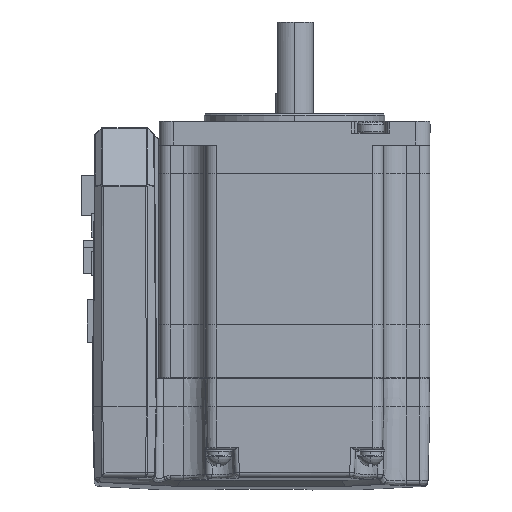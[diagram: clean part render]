
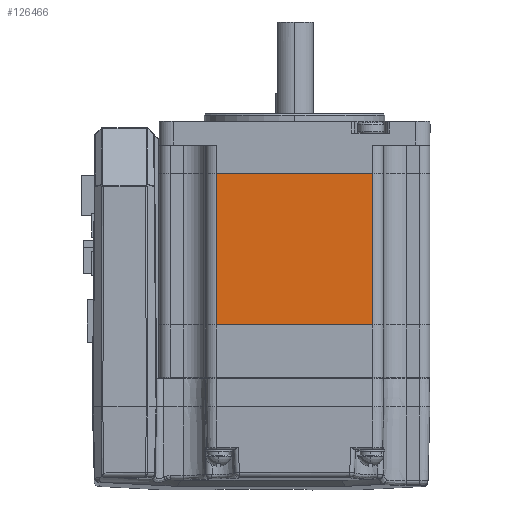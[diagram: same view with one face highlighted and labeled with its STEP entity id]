
A CAD part, left-side view. The second image highlights one B-rep face of the part: STEP entity #126466.
In plain terms, the highlighted planar face has unit normal (-1, 0, 0).
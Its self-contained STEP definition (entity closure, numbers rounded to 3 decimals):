
#117747=DIRECTION('',(0.,0.,1.));
#117748=VECTOR('',#117747,32.);
#117749=CARTESIAN_POINT('',(-28.6,16.5,-16.));
#117750=LINE('',#117749,#117748);
#117755=DIRECTION('',(0.,1.,0.));
#117756=VECTOR('',#117755,33.);
#117757=CARTESIAN_POINT('',(-28.6,-16.5,16.));
#117758=LINE('',#117757,#117756);
#117763=DIRECTION('',(0.,0.,-1.));
#117764=VECTOR('',#117763,32.);
#117765=CARTESIAN_POINT('',(-28.6,-16.5,16.));
#117766=LINE('',#117765,#117764);
#117855=DIRECTION('',(0.,1.,0.));
#117856=VECTOR('',#117855,33.);
#117857=CARTESIAN_POINT('',(-28.6,-16.5,-16.));
#117858=LINE('',#117857,#117856);
#122679=CARTESIAN_POINT('',(-28.6,-16.5,16.));
#122680=CARTESIAN_POINT('',(-28.6,-16.5,-16.));
#122681=VERTEX_POINT('',#122679);
#122682=VERTEX_POINT('',#122680);
#123167=CARTESIAN_POINT('',(-28.6,16.5,-16.));
#123168=CARTESIAN_POINT('',(-28.6,16.5,16.));
#123169=VERTEX_POINT('',#123167);
#123170=VERTEX_POINT('',#123168);
#126453=CARTESIAN_POINT('',(-28.6,-16.5,16.));
#126454=DIRECTION('',(1.,0.,0.));
#126455=DIRECTION('',(0.,0.,-1.));
#126456=AXIS2_PLACEMENT_3D('',#126453,#126454,#126455);
#126457=PLANE('',#126456);
#126458=ORIENTED_EDGE('',*,*,#126445,.T.);
#126459=ORIENTED_EDGE('',*,*,#124998,.F.);
#126461=ORIENTED_EDGE('',*,*,#126460,.T.);
#126463=ORIENTED_EDGE('',*,*,#126462,.T.);
#126464=EDGE_LOOP('',(#126458,#126459,#126461,#126463));
#126465=FACE_OUTER_BOUND('',#126464,.F.);
#126466=ADVANCED_FACE('',(#126465),#126457,.F.);
#124998=EDGE_CURVE('',#122681,#123170,#117758,.T.);
#126445=EDGE_CURVE('',#123169,#123170,#117750,.T.);
#126460=EDGE_CURVE('',#122681,#122682,#117766,.T.);
#126462=EDGE_CURVE('',#122682,#123169,#117858,.T.);
